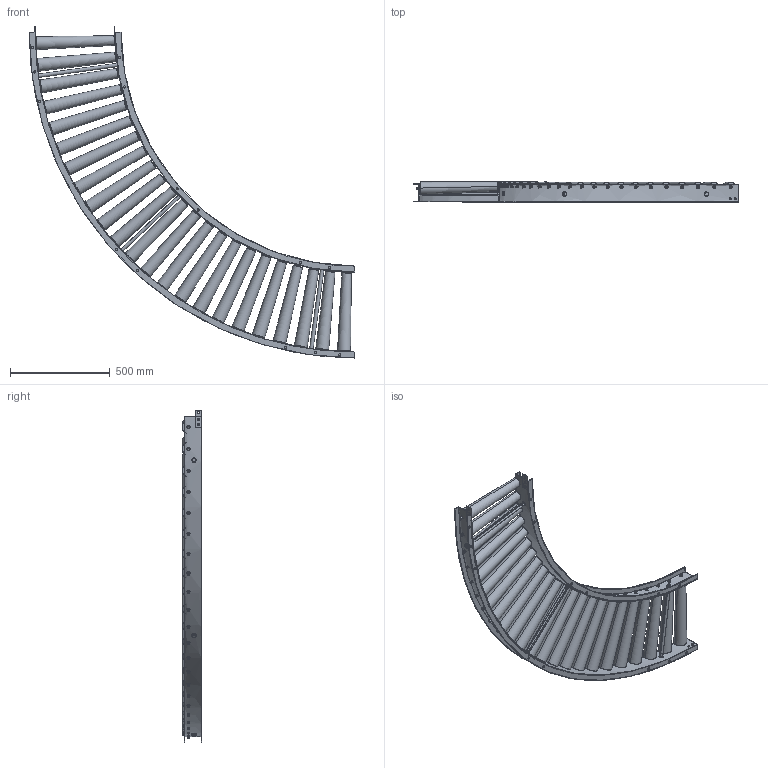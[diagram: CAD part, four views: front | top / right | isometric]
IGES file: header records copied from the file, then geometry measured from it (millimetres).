
Start section: SolidWorks IGES file using analytic representation for surfaces
Global section: file name: C:\Users\0656\Desktop\変換ツール\iges変換\S-TC1200_C.igs; native system: SolidWorks 2023; preprocessor: SolidWorks 2023; author: 0656; date: 240302.141335; units: millimetre
Bounding box: 1630 x 100.04 x 1661.56 mm (x, y, z)
Surface area: 4142133.7 mm2 (no closed solid volume)
Topology: 0 solids, 0 shells, 1010 faces, 22008 edges, 22008 vertices
Faces by surface type: revolution 545, bspline 465
